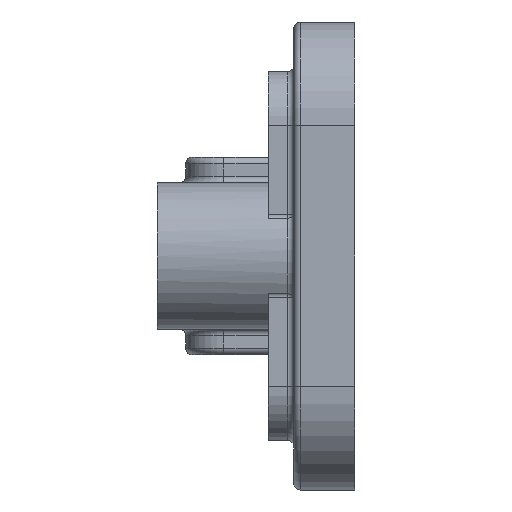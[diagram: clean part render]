
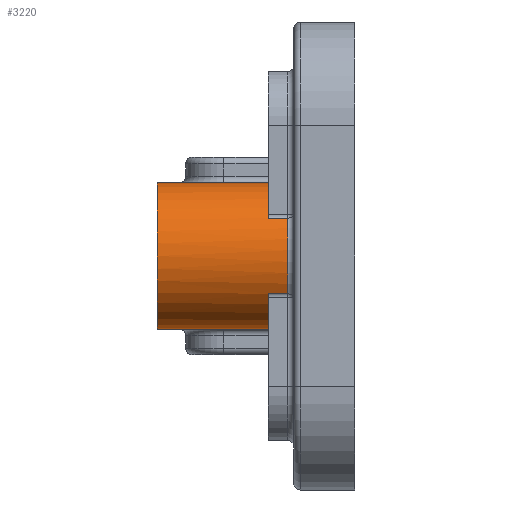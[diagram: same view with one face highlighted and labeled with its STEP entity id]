
A CAD part, left-side view. The second image highlights one B-rep face of the part: STEP entity #3220.
In plain terms, the highlighted cylindrical face has radius 5.75 mm (diameter 11.5 mm), a partial arc.
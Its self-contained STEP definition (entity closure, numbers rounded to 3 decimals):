
#137 = DIRECTION ( 'NONE',  ( 0., -1., 0. ) ) ;
#244 = VERTEX_POINT ( 'NONE', #3288 ) ;
#435 = CARTESIAN_POINT ( 'NONE',  ( -45.172, 18.75, -2.973 ) ) ;
#451 = AXIS2_PLACEMENT_3D ( 'NONE', #5429, #4319, #4777 ) ;
#510 = CARTESIAN_POINT ( 'NONE',  ( -45.172, 10., 2.973 ) ) ;
#592 = DIRECTION ( 'NONE',  ( 0., -1., 0. ) ) ;
#594 = DIRECTION ( 'NONE',  ( 0., 0., 1. ) ) ;
#726 = CARTESIAN_POINT ( 'NONE',  ( -45.172, 10., -2.973 ) ) ;
#780 = ORIENTED_EDGE ( 'NONE', *, *, #6922, .T. ) ;
#782 = CARTESIAN_POINT ( 'NONE',  ( -40.25, 18.75, -5.75 ) ) ;
#822 = LINE ( 'NONE', #782, #6797 ) ;
#860 = DIRECTION ( 'NONE',  ( 0., -1., 0. ) ) ;
#1366 = DIRECTION ( 'NONE',  ( 0., 1., 0. ) ) ;
#1556 = EDGE_CURVE ( 'NONE', #6719, #4438, #7446, .T. ) ;
#1576 = CARTESIAN_POINT ( 'NONE',  ( -40.25, 18.75, -5.75 ) ) ;
#1631 = CARTESIAN_POINT ( 'NONE',  ( -45.172, 18.75, 2.973 ) ) ;
#1670 = CIRCLE ( 'NONE', #1905, 5.75 ) ;
#1696 = EDGE_CURVE ( 'NONE', #4488, #244, #5904, .T. ) ;
#1766 = ORIENTED_EDGE ( 'NONE', *, *, #6911, .F. ) ;
#1772 = EDGE_LOOP ( 'NONE', ( #3975, #6427, #6763, #3844, #5773, #4971, #780, #1766 ) ) ;
#1854 = AXIS2_PLACEMENT_3D ( 'NONE', #4103, #6446, #594 ) ;
#1905 = AXIS2_PLACEMENT_3D ( 'NONE', #4315, #137, #4930 ) ;
#1995 = CARTESIAN_POINT ( 'NONE',  ( -45.172, 8.5, -2.973 ) ) ;
#2088 = EDGE_CURVE ( 'NONE', #244, #4438, #1670, .T. ) ;
#2324 = CARTESIAN_POINT ( 'NONE',  ( -40.25, 18.75, 5.75 ) ) ;
#2449 = EDGE_CURVE ( 'NONE', #5986, #3215, #3376, .T. ) ;
#2696 = FACE_OUTER_BOUND ( 'NONE', #1772, .T. ) ;
#2884 = CARTESIAN_POINT ( 'NONE',  ( -40.25, 18.75, 0. ) ) ;
#3026 = EDGE_CURVE ( 'NONE', #3215, #6719, #3780, .T. ) ;
#3215 = VERTEX_POINT ( 'NONE', #1995 ) ;
#3220 = ADVANCED_FACE ( 'NONE', ( #2696 ), #5049, .T. ) ;
#3288 = CARTESIAN_POINT ( 'NONE',  ( -40.25, 10., 5.75 ) ) ;
#3376 = LINE ( 'NONE', #435, #3410 ) ;
#3410 = VECTOR ( 'NONE', #3838, 1000. ) ;
#3548 = EDGE_CURVE ( 'NONE', #4823, #4488, #4040, .T. ) ;
#3780 = CIRCLE ( 'NONE', #451, 5.75 ) ;
#3838 = DIRECTION ( 'NONE',  ( 0., -1., 0. ) ) ;
#3844 = ORIENTED_EDGE ( 'NONE', *, *, #2088, .F. ) ;
#3975 = ORIENTED_EDGE ( 'NONE', *, *, #2449, .T. ) ;
#4034 = DIRECTION ( 'NONE',  ( 0., 1., 0. ) ) ;
#4040 = CIRCLE ( 'NONE', #5514, 5.75 ) ;
#4103 = CARTESIAN_POINT ( 'NONE',  ( -40.25, 10., 0. ) ) ;
#4116 = DIRECTION ( 'NONE',  ( 0., 0., -1. ) ) ;
#4266 = VECTOR ( 'NONE', #4034, 1000. ) ;
#4315 = CARTESIAN_POINT ( 'NONE',  ( -40.25, 10., 0. ) ) ;
#4319 = DIRECTION ( 'NONE',  ( 0., 1., 0. ) ) ;
#4438 = VERTEX_POINT ( 'NONE', #510 ) ;
#4488 = VERTEX_POINT ( 'NONE', #2324 ) ;
#4717 = VERTEX_POINT ( 'NONE', #6625 ) ;
#4718 = CARTESIAN_POINT ( 'NONE',  ( -40.25, 18.75, 5.75 ) ) ;
#4777 = DIRECTION ( 'NONE',  ( 0., 0., 1. ) ) ;
#4823 = VERTEX_POINT ( 'NONE', #1576 ) ;
#4930 = DIRECTION ( 'NONE',  ( 0., 0., 1. ) ) ;
#4971 = ORIENTED_EDGE ( 'NONE', *, *, #3548, .F. ) ;
#5049 = CYLINDRICAL_SURFACE ( 'NONE', #5507, 5.75 ) ;
#5429 = CARTESIAN_POINT ( 'NONE',  ( -40.25, 8.5, 0. ) ) ;
#5507 = AXIS2_PLACEMENT_3D ( 'NONE', #2884, #5696, #4116 ) ;
#5514 = AXIS2_PLACEMENT_3D ( 'NONE', #6187, #1366, #7415 ) ;
#5696 = DIRECTION ( 'NONE',  ( 0., -1., 0. ) ) ;
#5773 = ORIENTED_EDGE ( 'NONE', *, *, #1696, .F. ) ;
#5904 = LINE ( 'NONE', #4718, #6967 ) ;
#5986 = VERTEX_POINT ( 'NONE', #726 ) ;
#6168 = CIRCLE ( 'NONE', #1854, 5.75 ) ;
#6187 = CARTESIAN_POINT ( 'NONE',  ( -40.25, 18.75, 0. ) ) ;
#6427 = ORIENTED_EDGE ( 'NONE', *, *, #3026, .T. ) ;
#6446 = DIRECTION ( 'NONE',  ( 0., -1., 0. ) ) ;
#6625 = CARTESIAN_POINT ( 'NONE',  ( -40.25, 10., -5.75 ) ) ;
#6719 = VERTEX_POINT ( 'NONE', #7447 ) ;
#6763 = ORIENTED_EDGE ( 'NONE', *, *, #1556, .T. ) ;
#6797 = VECTOR ( 'NONE', #860, 1000. ) ;
#6911 = EDGE_CURVE ( 'NONE', #5986, #4717, #6168, .T. ) ;
#6922 = EDGE_CURVE ( 'NONE', #4823, #4717, #822, .T. ) ;
#6967 = VECTOR ( 'NONE', #592, 1000. ) ;
#7415 = DIRECTION ( 'NONE',  ( 0., 0., 1. ) ) ;
#7446 = LINE ( 'NONE', #1631, #4266 ) ;
#7447 = CARTESIAN_POINT ( 'NONE',  ( -45.172, 8.5, 2.973 ) ) ;
